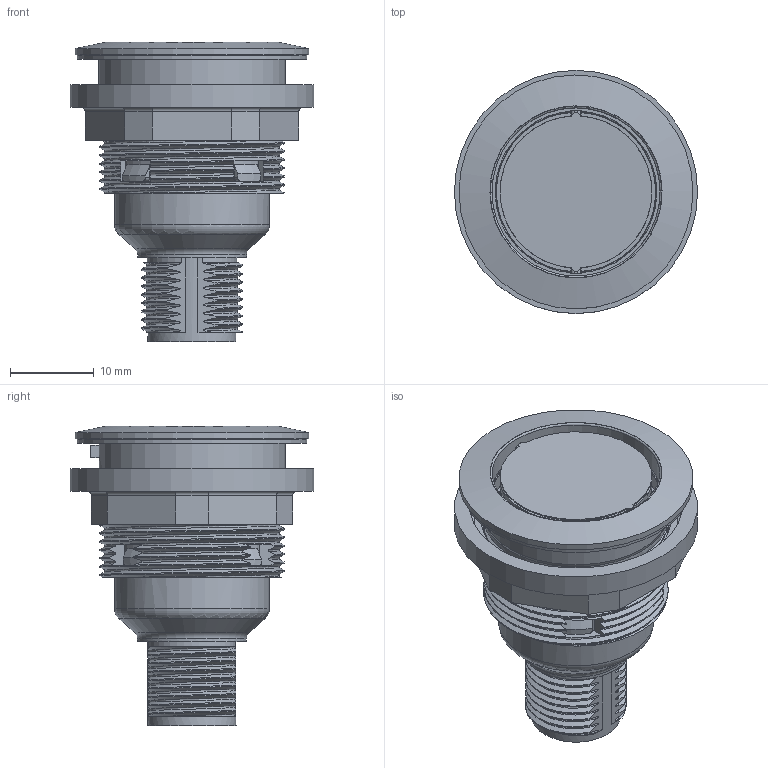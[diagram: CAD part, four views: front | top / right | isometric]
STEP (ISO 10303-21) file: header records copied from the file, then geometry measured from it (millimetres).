
FILE_DESCRIPTION(/* description */ (''),/* implementation_level */ '2;1');
FILE_NAME(/* name */ 'SVAN_C010_vereinfacht.stp',/* time_stamp */ '2024-07-02T08:04:42+02:00',/* author */ ('Sz'),/* organization */ (''),/* preprocessor_version */ 'ST-DEVELOPER v19.2',/* originating_system */ 'Autodesk Inventor 2023',/* authorisation */ '');
FILE_SCHEMA (('AUTOMOTIVE_DESIGN { 1 0 10303 214 3 1 1 }'));
Length unit declared in the file: centimetre
Products named in the file (1): Bauteil5906
Bounding box: 29 x 29 x 35.7 mm (x, y, z)
Volume: 11266.1 mm3; surface area: 10732.2 mm2
Topology: 7 solids, 7 shells, 394 faces, 1053 edges, 687 vertices
Faces by surface type: cylinder 134, plane 133, bspline 84, torus 21, cone 18, sphere 4
Full cylindrical faces by diameter (mm): 1 x4, 8.3 x1, 10.5 x1, 11.8 x1, 13 x1, 15 x1, 17.98 x1, 18.1 x1, 18.5 x1, 19 x2, 20.05 x2, 20.65 x4, 20.85 x1, 20.917 x1, 22 x9, 22.2 x1, 22.6 x1, 25.35 x1, 27.3 x2, 27.4 x1, 27.9 x1, 29 x1
Entity records: 30078 total; most frequent: CARTESIAN_POINT 20496, ORIENTED_EDGE 2098, DIRECTION 1562, EDGE_CURVE 1049, VERTEX_POINT 687, AXIS2_PLACEMENT_3D 587, EDGE_LOOP 426, STYLED_ITEM 401
